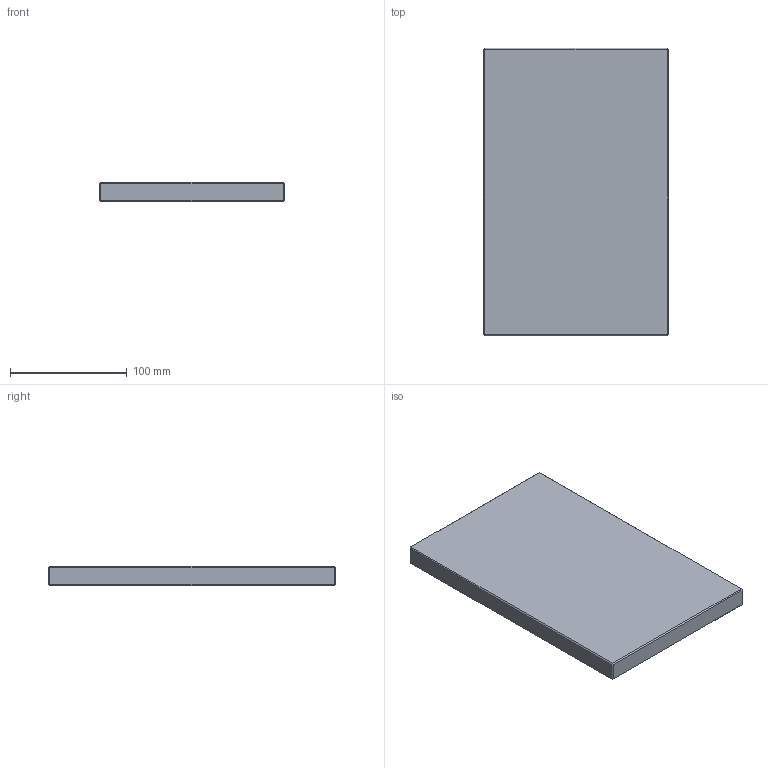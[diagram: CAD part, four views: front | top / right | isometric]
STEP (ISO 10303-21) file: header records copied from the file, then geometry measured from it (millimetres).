
FILE_DESCRIPTION (( 'STEP AP214' ), '1' );
FILE_NAME ('CPE-P-246x246x17.STEP', '2021-03-25T13:38:36', ( '' ), ( '' ), 'SwSTEP 2.0', 'SolidWorks 2018', '' );
FILE_SCHEMA (( 'AUTOMOTIVE_DESIGN' ));
Length unit declared in the file: millimetre
Products named in the file (1): CPE-P-246x246x17
Bounding box: 158 x 246 x 17 mm (x, y, z)
Volume: 659919.3 mm3; surface area: 90482.5 mm2
Topology: 1 solids, 1 shells, 26 faces, 48 edges, 24 vertices
Faces by surface type: plane 26
Entity records: 634 total; most frequent: DIRECTION 102, CARTESIAN_POINT 99, ORIENTED_EDGE 96, LINE 48, VECTOR 48, EDGE_CURVE 48, AXIS2_PLACEMENT_3D 27, PLANE 26
